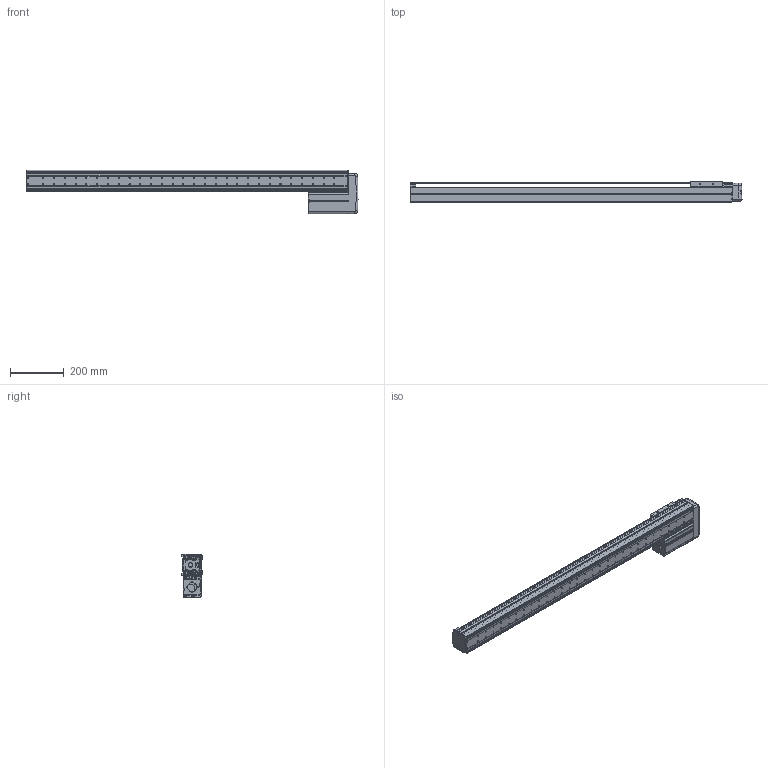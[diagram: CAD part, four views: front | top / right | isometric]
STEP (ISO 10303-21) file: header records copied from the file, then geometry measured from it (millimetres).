
FILE_DESCRIPTION((''),'2;1');
FILE_NAME('BE10E-UL-M_N-A0_IGS_PRT','2017-06-17T',(' '),(''),'PRO/ENGINEER BY PARAMETRIC TECHNOLOGY CORPORATION, 2015030','PRO/ENGINEER BY PARAMETRIC TECHNOLOGY CORPORATION, 2015030','');
FILE_SCHEMA(('CONFIG_CONTROL_DESIGN'));
Length unit declared in the file: millimetre
Products named in the file (1): BE10E-UL-M_N-A0_IGS_PRT
Bounding box: 1231.42 x 75 x 160 mm (x, y, z)
Volume: 1671599.9 mm3; surface area: 1127890.2 mm2
Topology: 2 solids, 135 shells, 1892 faces, 5121 edges, 3345 vertices
Faces by surface type: cylinder 937, plane 727, cone 81, torus 69, sphere 44, bspline 34
Entity records: 62089 total; most frequent: CARTESIAN_POINT 13229, DIRECTION 10598, ORIENTED_EDGE 9648, EDGE_CURVE 5081, AXIS2_PLACEMENT_3D 3995, VERTEX_POINT 3345, VECTOR 2608, LINE 2608
